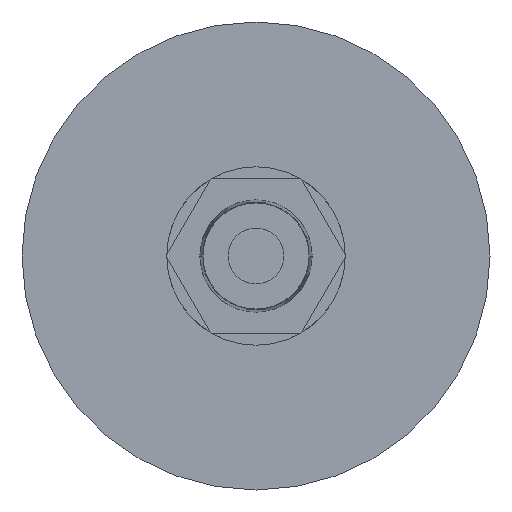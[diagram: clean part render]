
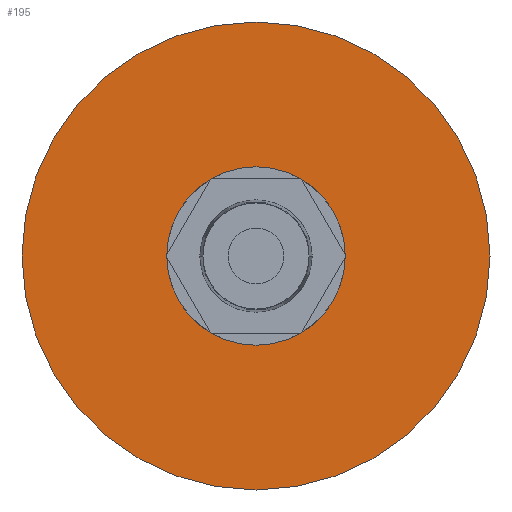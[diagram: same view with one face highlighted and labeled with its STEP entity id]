
A CAD part, left-side view. The second image highlights one B-rep face of the part: STEP entity #195.
In plain terms, the highlighted planar face has unit normal (-1, 0, 0).
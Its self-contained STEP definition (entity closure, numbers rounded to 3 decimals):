
#195=ADVANCED_FACE('',(#397,#398),#399,.T.);
#397=FACE_OUTER_BOUND('',#598,.T.);
#398=FACE_BOUND('',#599,.T.);
#399=PLANE('',#600);
#598=EDGE_LOOP('',(#1080,#1081));
#599=EDGE_LOOP('',(#1082,#1083));
#600=AXIS2_PLACEMENT_3D('',#1084,#1085,#1086);
#1080=ORIENTED_EDGE('',*,*,#1137,.F.);
#1081=ORIENTED_EDGE('',*,*,#1310,.F.);
#1082=ORIENTED_EDGE('',*,*,#1156,.T.);
#1083=ORIENTED_EDGE('',*,*,#1308,.T.);
#1084=CARTESIAN_POINT('',(21.7,19.75,0.0));
#1085=DIRECTION('',(-1.0,0.0,0.0));
#1086=DIRECTION('',(0.0,0.0,1.0));
#1137=EDGE_CURVE('',#1339,#1342,#1343,.T.);
#1156=EDGE_CURVE('',#1349,#1377,#1379,.T.);
#1308=EDGE_CURVE('',#1377,#1349,#1590,.T.);
#1310=EDGE_CURVE('',#1342,#1339,#1592,.T.);
#1339=VERTEX_POINT('',#1692);
#1342=VERTEX_POINT('',#1696);
#1343=CIRCLE('',#1697,28.6);
#1349=VERTEX_POINT('',#1704);
#1377=VERTEX_POINT('',#1739);
#1379=CIRCLE('',#1742,10.9);
#1590=CIRCLE('',#2065,10.9);
#1592=CIRCLE('',#2067,28.6);
#1692=CARTESIAN_POINT('',(21.7,28.6,0.0));
#1696=CARTESIAN_POINT('',(21.7,-28.6,0.));
#1697=AXIS2_PLACEMENT_3D('',#2086,#2087,#2088);
#1704=CARTESIAN_POINT('',(21.7,10.9,0.0));
#1739=CARTESIAN_POINT('',(21.7,-10.9,0.));
#1742=AXIS2_PLACEMENT_3D('',#2122,#2123,#2124);
#2065=AXIS2_PLACEMENT_3D('',#2322,#2323,#2324);
#2067=AXIS2_PLACEMENT_3D('',#2325,#2326,#2327);
#2086=CARTESIAN_POINT('',(21.7,0.0,0.0));
#2087=DIRECTION('',(1.0,0.0,0.0));
#2088=DIRECTION('',(0.0,1.0,0.0));
#2122=CARTESIAN_POINT('',(21.7,0.0,0.0));
#2123=DIRECTION('',(1.0,0.0,0.0));
#2124=DIRECTION('',(0.0,1.0,0.0));
#2322=CARTESIAN_POINT('',(21.7,0.0,0.0));
#2323=DIRECTION('',(1.0,0.0,0.0));
#2324=DIRECTION('',(0.0,1.0,0.0));
#2325=CARTESIAN_POINT('',(21.7,0.0,0.0));
#2326=DIRECTION('',(1.0,0.0,0.0));
#2327=DIRECTION('',(0.0,1.0,0.0));
